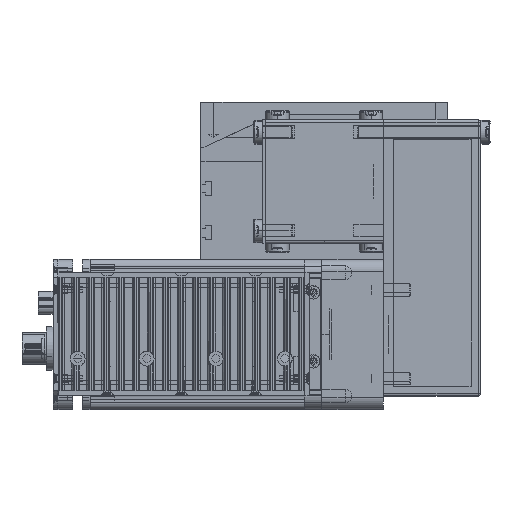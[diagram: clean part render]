
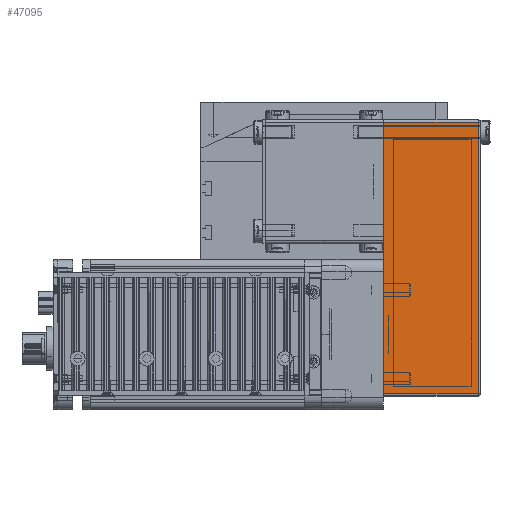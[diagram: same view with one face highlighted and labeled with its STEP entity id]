
A CAD part, top view. The second image highlights one B-rep face of the part: STEP entity #47095.
In plain terms, the highlighted planar face has unit normal (0, 0, 1) as drawn and (0, -1, 0) by its records, which use the part's own axes.
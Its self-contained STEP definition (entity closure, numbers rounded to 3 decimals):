
#15061 = CARTESIAN_POINT ( 'NONE',  ( -49., -25., 38.5 ) ) ;
#15214 = CARTESIAN_POINT ( 'NONE',  ( 61., -25., 0. ) ) ;
#15296 = CARTESIAN_POINT ( 'NONE',  ( -49., -25., 0. ) ) ;
#15365 = DIRECTION ( 'NONE',  ( 0., 0., 1. ) ) ;
#15367 = VECTOR ( 'NONE', #15365, 1000. ) ;
#15370 = CARTESIAN_POINT ( 'NONE',  ( -49., -25., 39.5 ) ) ;
#15379 = LINE ( 'NONE', #15370, #15367 ) ;
#15498 = DIRECTION ( 'NONE',  ( 0., 0., -1. ) ) ;
#15500 = VECTOR ( 'NONE', #15498, 1000. ) ;
#15502 = CARTESIAN_POINT ( 'NONE',  ( 61., -25., 39.5 ) ) ;
#15516 = LINE ( 'NONE', #15502, #15500 ) ;
#15593 = CARTESIAN_POINT ( 'NONE',  ( 61., -25., 38.5 ) ) ;
#15773 = AXIS2_PLACEMENT_3D ( 'NONE', #15896, #15895, #15894 ) ;
#15794 = FACE_OUTER_BOUND ( 'NONE', #47090, .T. ) ;
#15798 = VECTOR ( 'NONE', #15808, 1000. ) ;
#15808 = DIRECTION ( 'NONE',  ( 1., 0., 0. ) ) ;
#15809 = CARTESIAN_POINT ( 'NONE',  ( -50., -25., 0. ) ) ;
#15810 = LINE ( 'NONE', #15809, #15798 ) ;
#15820 = PLANE ( 'NONE',  #15773 ) ;
#15894 = DIRECTION ( 'NONE',  ( 0., 0., 1. ) ) ;
#15895 = DIRECTION ( 'NONE',  ( 0., 1., 0. ) ) ;
#15896 = CARTESIAN_POINT ( 'NONE',  ( -50., -25., 39.5 ) ) ;
#15920 = DIRECTION ( 'NONE',  ( 1., 0., 0. ) ) ;
#15922 = VECTOR ( 'NONE', #15920, 1000. ) ;
#15925 = CARTESIAN_POINT ( 'NONE',  ( -50., -25., 38.5 ) ) ;
#15927 = LINE ( 'NONE', #15925, #15922 ) ;
#46879 = VERTEX_POINT ( 'NONE', #15061 ) ;
#46953 = VERTEX_POINT ( 'NONE', #15214 ) ;
#46968 = VERTEX_POINT ( 'NONE', #15296 ) ;
#46973 = EDGE_CURVE ( 'NONE', #46968, #46879, #15379, .T. ) ;
#47013 = EDGE_CURVE ( 'NONE', #47031, #46953, #15516, .T. ) ;
#47031 = VERTEX_POINT ( 'NONE', #15593 ) ;
#47088 = EDGE_CURVE ( 'NONE', #46968, #46953, #15810, .T. ) ;
#47089 = EDGE_CURVE ( 'NONE', #46879, #47031, #15927, .T. ) ;
#47090 = EDGE_LOOP ( 'NONE', ( #47098, #47100, #47093, #47103 ) ) ;
#47093 = ORIENTED_EDGE ( 'NONE', *, *, #47013, .F. ) ;
#47095 = ADVANCED_FACE ( 'NONE', ( #15794 ), #15820, .F. ) ;
#47098 = ORIENTED_EDGE ( 'NONE', *, *, #46973, .F. ) ;
#47100 = ORIENTED_EDGE ( 'NONE', *, *, #47088, .T. ) ;
#47103 = ORIENTED_EDGE ( 'NONE', *, *, #47089, .F. ) ;
